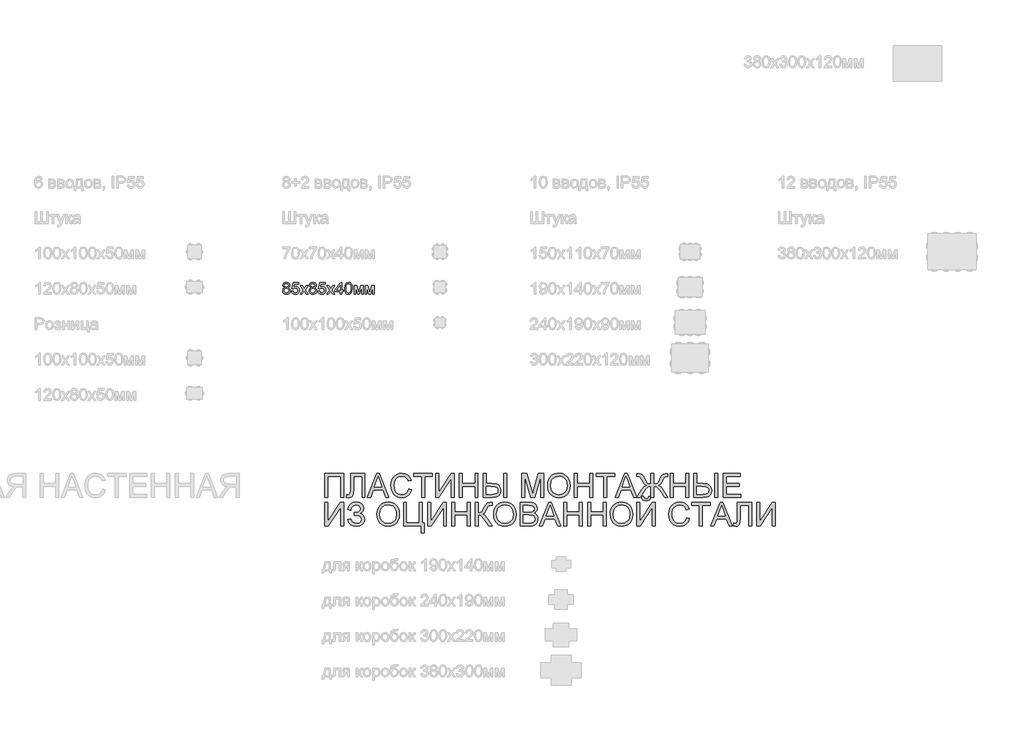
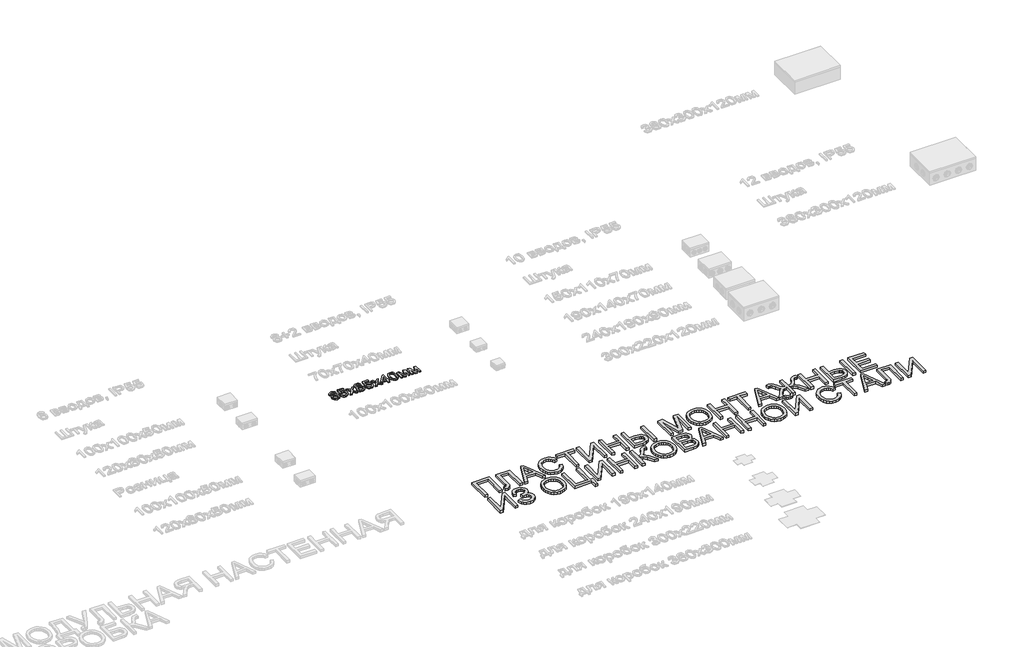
# One storey, part 24 of 98: 2 proxies.
"""IFC4 building model written with IfcOpenShell, lengths in millimetres."""

from ifc_helpers import new_model, si_unit, origin, origin_with_axes, place, context, project, spatial, polyline, outline, extrude, element, save

model = new_model("IFC4")

# Units and contexts
model_context = context("Model", 3, world=origin())
ifc_project = project(units=[si_unit("LENGTHUNIT", "METRE", prefix="MILLI")], contexts=[model_context])

# Site, building, storey
site = spatial("IfcSite", under=ifc_project)
building = spatial("IfcBuilding", under=site)
storey = spatial("IfcBuildingStorey", under=building, Name="Этаж 01", Elevation=0.0)

# Proxies
placement = place(None, origin())
element("IfcBuildingElementProxy", 1, Name="100", ObjectType="100", at=placement, inside=storey, context=model_context, shape_type="SweptSolid", body=[
    extrude(outline(polyline([(8068.7462166, -46004.1827144), (8057.3050866, -45996.3836161), (8053.5894784, -45984.2435102), (8055.6128294, -45974.4271923), (8061.6828823, -45966.3153943), (8071.1190555, -45960.8707408), (8083.2407672, -45959.0558563), (8095.4360554, -45960.9136604), (8104.9948559, -45966.4870726), (8111.1752734, -45974.7276293), (8113.2354126, -45984.5868668), (8109.5688553, -45996.4204043), (8098.4465563, -46004.1827144), (8111.8006728, -46014.0296891), (8116.3746722, -46030.2778106), (8114.1060666, -46042.2830264), (8107.3002497, -46052.2035775), (8096.7910874, -46058.8622416), (8083.4124455, -46061.0817963), (8070.0338036, -46058.8530446), (8059.5246413, -46052.1667893), (8052.7188243, -46042.151202), (8050.4502187, -46029.934454), (8055.2081592, -46013.3061879), (8068.7462166, -46004.1827144)]), holes=[polyline([(8066.1465172, -45984.6113922), (8070.5978893, -45994.4706297), (8083.5595983, -45998.2966025), (8096.2637898, -45994.4951552), (8100.6783738, -45985.175478), (8096.116637, -45975.524707), (8083.4124455, -45971.6128951), (8070.6714657, -45975.4388678), (8066.1465172, -45984.6113922)]), polyline([(8063.0072575, -46029.4929957), (8065.1041849, -46038.9475629), (8072.5231384, -46046.02316), (8083.5105473, -46048.5247575), (8092.0576724, -46047.2095794), (8098.4710818, -46043.264045), (8103.8176335, -46029.8854031), (8098.2994035, -46016.2492438), (8091.7388413, -46012.2025419), (8083.0936144, -46010.8536412), (8074.666051, -46012.1841478), (8068.3170209, -46016.1756674), (8063.0072575, -46029.4929957)])]), origin_with_axes(), (0.0, 0.0, 1.0), 10.0),
    extrude(outline(polyline([(8127.3620812, -46032.8284591), (8139.9191199, -46031.2588292), (8146.2466903, -46044.1960127), (8159.3678147, -46048.5247575), (8168.3686609, -46047.019507), (8175.1131641, -46042.5037555), (8179.325413, -46035.4986692), (8180.7294959, -46026.5254142), (8175.4687834, -46011.6139307), (8168.8622359, -46007.5120464), (8159.5640185, -46006.1447517), (8148.5398214, -46008.3275182), (8141.4887498, -46013.9929009), (8128.931711, -46012.4232711), (8139.9191199, -45960.6254862), (8188.5776452, -45960.6254862), (8188.5776452, -45973.1825249), (8150.072663, -45973.1825249), (8144.7015859, -46000.847251), (8153.6717752, -45995.4025974), (8163.0711602, -45993.5877129), (8174.8035301, -45995.8379245), (8184.543206, -46002.5885591), (8191.1007025, -46012.8769922), (8193.2865347, -46025.7405993), (8191.318366, -46038.2976381), (8185.41386, -46049.0397923), (8174.10762, -46058.0712953), (8159.3187638, -46061.0817963), (8146.9855199, -46059.1473501), (8137.160005, -46053.3440117), (8130.4246988, -46044.3462312), (8127.3620812, -46032.8284591)])), origin_with_axes(), (0.0, 0.0, 1.0), 10.0),
    extrude(outline(polyline([(8199.5650541, -46059.5121665), (8226.3959143, -46022.4296613), (8201.1346839, -45985.7395637), (8216.2423712, -45985.7395637), (8228.431528, -46003.3978995), (8234.1214362, -46011.736558), (8239.0510549, -46004.9184784), (8252.9324689, -45985.7395637), (8268.0401561, -45985.7395637), (8241.5036015, -46022.4296613), (8267.0591375, -46059.5121665), (8251.9514502, -46059.5121665), (8236.5739828, -46037.2185176), (8233.7535542, -46033.1472901), (8214.6727414, -46059.5121665), (8199.5650541, -46059.5121665)])), origin_with_axes(), (0.0, 0.0, 1.0), 10.0),
    extrude(outline(polyline([(8293.2032846, -46004.1827144), (8281.7621545, -45996.3836161), (8278.0465464, -45984.2435102), (8280.0698974, -45974.4271923), (8286.1399503, -45966.3153943), (8295.5761235, -45960.8707408), (8307.6978352, -45959.0558563), (8319.8931233, -45960.9136604), (8329.4519239, -45966.4870726), (8335.6323414, -45974.7276293), (8337.6924805, -45984.5868668), (8334.0259233, -45996.4204043), (8322.9036243, -46004.1827144), (8336.2577408, -46014.0296891), (8340.8317402, -46030.2778106), (8338.5631346, -46042.2830264), (8331.7573177, -46052.2035775), (8321.2481554, -46058.8622416), (8307.8695135, -46061.0817963), (8294.4908716, -46058.8530446), (8283.9817092, -46052.1667893), (8277.1758923, -46042.151202), (8274.9072867, -46029.934454), (8279.6652272, -46013.3061879), (8293.2032846, -46004.1827144)]), holes=[polyline([(8287.4643255, -46029.4929957), (8289.5612528, -46038.9475629), (8296.9802064, -46046.02316), (8307.9676153, -46048.5247575), (8316.5147404, -46047.2095794), (8322.9281498, -46043.264045), (8328.2747015, -46029.8854031), (8322.7564715, -46016.2492438), (8316.1959093, -46012.2025419), (8307.5506824, -46010.8536412), (8299.123119, -46012.1841478), (8292.7740889, -46016.1756674), (8287.4643255, -46029.4929957)]), polyline([(8290.6035852, -45984.6113922), (8295.0549573, -45994.4706297), (8308.0166663, -45998.2966025), (8320.7208578, -45994.4951552), (8325.1354418, -45985.175478), (8320.573705, -45975.524707), (8307.8695135, -45971.6128951), (8295.1285337, -45975.4388678), (8290.6035852, -45984.6113922)])]), origin_with_axes(), (0.0, 0.0, 1.0), 10.0),
    extrude(outline(polyline([(8351.8191492, -46032.8284591), (8364.3761879, -46031.2588292), (8370.7037582, -46044.1960127), (8383.8248827, -46048.5247575), (8392.8257289, -46047.019507), (8399.5702321, -46042.5037555), (8403.782481, -46035.4986692), (8405.1865639, -46026.5254142), (8399.9258514, -46011.6139307), (8393.3193039, -46007.5120464), (8384.0210865, -46006.1447517), (8372.9968893, -46008.3275182), (8365.9458178, -46013.9929009), (8353.388779, -46012.4232711), (8364.3761879, -45960.6254862), (8413.0347132, -45960.6254862), (8413.0347132, -45973.1825249), (8374.529731, -45973.1825249), (8369.1586539, -46000.847251), (8378.1288432, -45995.4025974), (8387.5282282, -45993.5877129), (8399.2605981, -45995.8379245), (8409.0002739, -46002.5885591), (8415.5577705, -46012.8769922), (8417.7436027, -46025.7405993), (8415.775434, -46038.2976381), (8409.870928, -46049.0397923), (8398.564688, -46058.0712953), (8383.7758318, -46061.0817963), (8371.4425879, -46059.1473501), (8361.617073, -46053.3440117), (8354.8817668, -46044.3462312), (8351.8191492, -46032.8284591)])), origin_with_axes(), (0.0, 0.0, 1.0), 10.0),
    extrude(outline(polyline([(8424.0221221, -46059.5121665), (8450.8529823, -46022.4296613), (8425.5917519, -45985.7395637), (8440.6994392, -45985.7395637), (8452.888596, -46003.3978995), (8458.5785042, -46011.736558), (8463.5081229, -46004.9184784), (8477.3895368, -45985.7395637), (8492.4972241, -45985.7395637), (8465.9606695, -46022.4296613), (8491.5162055, -46059.5121665), (8476.4085182, -46059.5121665), (8461.0310508, -46037.2185176), (8458.2106222, -46033.1472901), (8439.1298093, -46059.5121665), (8424.0221221, -46059.5121665)])), origin_with_axes(), (0.0, 0.0, 1.0), 10.0),
    extrude(outline(polyline([(8540.1747307, -46059.5121665), (8540.1747307, -46035.9677188), (8494.6554652, -46035.9677188), (8494.6554652, -46023.41068), (8543.3139904, -45960.6254862), (8552.7317695, -45960.6254862), (8552.7317695, -46023.41068), (8565.2888082, -46023.41068), (8565.2888082, -46035.9677188), (8552.7317695, -46035.9677188), (8552.7317695, -46059.5121665), (8540.1747307, -46059.5121665)]), holes=[polyline([(8540.1747307, -46023.41068), (8540.1747307, -45984.6113922), (8510.1065089, -46023.41068), (8540.1747307, -46023.41068)])]), origin_with_axes(), (0.0, 0.0, 1.0), 10.0),
    extrude(outline(polyline([(8576.2762171, -46010.0933518), (8579.9672998, -45981.1900897), (8590.9301833, -45964.5250353), (8609.2384439, -45959.0558563), (8623.9046728, -45962.2932179), (8634.0336904, -45971.6251578), (8639.9198023, -45986.4875904), (8642.2006707, -46010.0933518), (8638.5463762, -46038.8739865), (8627.6202809, -46055.5758291), (8619.3889213, -46059.7053045), (8609.2384439, -46061.0817963), (8596.1908958, -46058.6905633), (8586.2826074, -46051.5168644), (8578.7778147, -46034.5268476), (8576.2762171, -46010.0933518)]), holes=[polyline([(8588.8332559, -46010.0688263), (8590.3047839, -46029.8210238), (8594.7193678, -46041.2529568), (8601.2921928, -46046.7068073), (8609.2384439, -46048.5247575), (8617.184695, -46046.700676), (8623.75752, -46041.2284313), (8628.1721039, -46029.7903669), (8629.6436319, -46010.0688263), (8628.2211549, -45990.7611529), (8623.9537237, -45979.2403151), (8617.3931615, -45973.5197501), (8609.0912911, -45971.6128951), (8601.2308792, -45973.2928895), (8594.9155716, -45978.3328729), (8590.3538348, -45990.5710806), (8588.8332559, -46010.0688263)])]), origin_with_axes(), (0.0, 0.0, 1.0), 10.0),
    extrude(outline(polyline([(8656.3273393, -45985.7395637), (8677.9342751, -45985.7395637), (8694.5870668, -46044.7968867), (8712.5397082, -45985.7395637), (8733.2392018, -45985.7395637), (8733.2392018, -46059.5121665), (8720.682163, -46059.5121665), (8720.682163, -46000.111487), (8702.6314198, -46059.5121665), (8686.1503064, -46059.5121665), (8668.8843781, -45997.2665329), (8668.8843781, -46059.5121665), (8656.3273393, -46059.5121665), (8656.3273393, -45985.7395637)])), origin_with_axes(), (0.0, 0.0, 1.0), 10.0),
    extrude(outline(polyline([(8752.0747599, -45985.7395637), (8773.6816958, -45985.7395637), (8790.3344874, -46044.7968867), (8808.2871288, -45985.7395637), (8828.9866224, -45985.7395637), (8828.9866224, -46059.5121665), (8816.4295836, -46059.5121665), (8816.4295836, -46000.111487), (8798.3788404, -46059.5121665), (8781.897727, -46059.5121665), (8764.6317987, -45997.2665329), (8764.6317987, -46059.5121665), (8752.0747599, -46059.5121665), (8752.0747599, -45985.7395637)])), origin_with_axes(), (0.0, 0.0, 1.0), 10.0),
])
element("IfcBuildingElementProxy", 2, Name="200", ObjectType="200", at=placement, inside=storey, context=model_context, shape_type="SweptSolid", body=[
    extrude(outline(polyline([(8410.119798, -47581.3349791), (8567.0827826, -47581.3349791), (8567.0827826, -47782.2475994), (8541.968705, -47782.2475994), (8541.968705, -47606.4490567), (8435.2338755, -47606.4490567), (8435.2338755, -47782.2475994), (8410.119798, -47782.2475994), (8410.119798, -47581.3349791)])), origin_with_axes(), (0.0, 0.0, 1.0), 20.0),
    extrude(outline(polyline([(8626.7287167, -47581.3349791), (8749.1598447, -47581.3349791), (8749.1598447, -47782.2475994), (8724.0457672, -47782.2475994), (8724.0457672, -47606.4490567), (8651.8427943, -47606.4490567), (8651.8427943, -47708.965506), (8648.9242638, -47754.7055007), (8644.4054466, -47767.6304215), (8636.6860561, -47777.3179807), (8626.1155801, -47783.3696395), (8613.0435065, -47785.3868591), (8592.1968601, -47782.2475994), (8595.3361198, -47757.1335219), (8607.3535983, -47760.2727816), (8615.845541, -47758.5866558), (8621.8971999, -47753.5282783), (8625.5208375, -47742.215907), (8626.7287167, -47721.7677994), (8626.7287167, -47581.3349791)])), origin_with_axes(), (0.0, 0.0, 1.0), 20.0),
    extrude(outline(polyline([(8769.7121855, -47782.2475994), (8849.9104605, -47581.3349791), (8871.2966671, -47581.3349791), (8951.4949421, -47782.2475994), (8924.9583875, -47782.2475994), (8901.9535001, -47719.4624056), (8819.2045766, -47719.4624056), (8796.2487401, -47782.2475994), (8769.7121855, -47782.2475994)]), holes=[polyline([(8828.426152, -47694.3483281), (8892.7809756, -47694.3483281), (8874.6811815, -47644.9540388), (8860.6035638, -47606.4490567), (8848.095576, -47640.6375568), (8828.426152, -47694.3483281)])]), origin_with_axes(), (0.0, 0.0, 1.0), 20.0),
    extrude(outline(polyline([(9119.5924884, -47710.8294414), (9144.7065659, -47717.3041646), (9133.1182831, -47746.5691773), (9114.9326498, -47767.9492526), (9091.0448456, -47781.0274575), (9062.35005, -47785.3868591), (9033.2199273, -47782.0881839), (9010.0862812, -47772.1921582), (8992.354369, -47756.0421386), (8979.4294482, -47733.9814817), (8971.5383794, -47708.045801), (8968.9080232, -47680.2707104), (8971.881736, -47650.9750408), (8980.8028744, -47625.6770223), (8995.2054545, -47605.1798638), (9014.6234924, -47590.2867744), (9037.6529053, -47581.2184832), (9062.8896102, -47578.1957194), (9090.4255776, -47582.1075313), (9113.1913417, -47593.842967), (9130.4756641, -47612.6785251), (9141.5673063, -47637.8907045), (9116.4532287, -47643.8749183), (9107.7466882, -47625.5605263), (9095.851837, -47612.9973562), (9080.6215224, -47605.7316868), (9061.9085916, -47603.309797), (9040.3384439, -47605.9953355), (9022.6187945, -47614.0519512), (9009.1727076, -47626.6335155), (9000.4232474, -47642.8938997), (8995.6223874, -47661.2757367), (8994.0221007, -47680.2216594), (8995.916693, -47703.4227506), (9001.6004698, -47723.4845821), (9011.288029, -47739.640733), (9025.1939684, -47751.1247826), (9041.8651542, -47757.9857819), (9059.8484524, -47760.2727816), (9080.8115947, -47757.1580474), (9098.2798582, -47747.8138447), (9111.4684277, -47732.3382754), (9119.5924884, -47710.8294414)])), origin_with_axes(), (0.0, 0.0, 1.0), 20.0),
    extrude(outline(polyline([(9229.4665776, -47782.2475994), (9229.4665776, -47606.4490567), (9163.5421241, -47606.4490567), (9163.5421241, -47581.3349791), (9320.5051087, -47581.3349791), (9320.5051087, -47606.4490567), (9254.5806552, -47606.4490567), (9254.5806552, -47782.2475994), (9229.4665776, -47782.2475994)])), origin_with_axes(), (0.0, 0.0, 1.0), 20.0),
    extrude(outline(polyline([(9348.7584459, -47581.3349791), (9373.8725235, -47581.3349791), (9373.8725235, -47740.4562048), (9479.0377232, -47581.3349791), (9505.7214305, -47581.3349791), (9505.7214305, -47782.2475994), (9480.607353, -47782.2475994), (9480.607353, -47623.5678322), (9375.687408, -47782.2475994), (9348.7584459, -47782.2475994), (9348.7584459, -47581.3349791)])), origin_with_axes(), (0.0, 0.0, 1.0), 20.0),
    extrude(outline(polyline([(9549.6710662, -47782.2475994), (9549.6710662, -47581.3349791), (9574.7851438, -47581.3349791), (9574.7851438, -47662.9557311), (9681.5199733, -47662.9557311), (9681.5199733, -47581.3349791), (9706.6340508, -47581.3349791), (9706.6340508, -47782.2475994), (9681.5199733, -47782.2475994), (9681.5199733, -47688.0698087), (9574.7851438, -47688.0698087), (9574.7851438, -47782.2475994), (9549.6710662, -47782.2475994)])), origin_with_axes(), (0.0, 0.0, 1.0), 20.0),
    extrude(outline(polyline([(9926.3822293, -47581.3349791), (9951.4963068, -47581.3349791), (9951.4963068, -47782.2475994), (9926.3822293, -47782.2475994), (9926.3822293, -47581.3349791)])), origin_with_axes(), (0.0, 0.0, 1.0), 20.0),
    extrude(outline(polyline([(9750.5836865, -47581.3349791), (9775.6977641, -47581.3349791), (9775.6977641, -47666.0949908), (9823.9638818, -47666.0949908), (9863.2414162, -47670.4850493), (9876.8009334, -47675.9726224), (9886.3076173, -47683.6552247), (9897.5280181, -47702.392681), (9901.2681518, -47723.4845821), (9897.3134203, -47745.5145822), (9885.449226, -47764.6137891), (9875.8429074, -47772.3285811), (9862.8428774, -47777.8391469), (9826.6616831, -47782.2475994), (9750.5836865, -47782.2475994), (9750.5836865, -47581.3349791)]), holes=[polyline([(9775.6977641, -47757.1335219), (9826.4164285, -47757.1335219), (9848.9737261, -47755.1408278), (9864.3573249, -47749.1627453), (9873.2048869, -47738.7946044), (9876.1540742, -47723.6317349), (9874.3698465, -47712.6811142), (9869.0171635, -47703.6680053), (9860.8379205, -47697.0829176), (9850.5740128, -47693.4163603), (9812.8293201, -47691.2090684), (9775.6977641, -47691.2090684), (9775.6977641, -47757.1335219)])]), origin_with_axes(), (0.0, 0.0, 1.0), 20.0),
    extrude(outline(polyline([(10077.0666945, -47782.2475994), (10077.0666945, -47581.3349791), (10120.2805662, -47581.3349791), (10161.3852478, -47722.9450218), (10169.6748554, -47752.5227342), (10178.6511761, -47720.4924752), (10219.0691447, -47581.3349791), (10262.2830164, -47581.3349791), (10262.2830164, -47782.2475994), (10237.1689388, -47782.2475994), (10237.1689388, -47606.4490567), (10186.6955291, -47782.2475994), (10152.6541818, -47782.2475994), (10102.1807721, -47606.4490567), (10102.1807721, -47782.2475994), (10077.0666945, -47782.2475994)])), origin_with_axes(), (0.0, 0.0, 1.0), 20.0),
    extrude(outline(polyline([(10296.814873, -47684.4400397), (10298.4887361, -47660.8741322), (10303.5103253, -47640.0121574), (10311.8796407, -47621.8541152), (10323.5966822, -47606.4000057), (10337.9594084, -47594.0606305), (10354.2657779, -47585.246791), (10372.5157905, -47579.9584873), (10392.7094464, -47578.1957194), (10419.06206, -47581.5066574), (10442.6923468, -47591.4394713), (10462.3127199, -47607.2951853), (10476.6355922, -47628.3748236), (10485.3911837, -47653.6605794), (10488.3097142, -47682.1346458), (10485.2378995, -47710.988857), (10476.0224556, -47736.630232), (10461.1722857, -47757.7466586), (10441.1962933, -47773.0260241), (10417.7683416, -47782.2966504), (10392.5622936, -47785.3868591), (10365.8050098, -47781.9716879), (10342.0398329, -47771.7261744), (10322.4685108, -47755.5761548), (10308.2927912, -47734.4474655), (10299.6843525, -47710.136597), (10296.814873, -47684.4400397)]), holes=[polyline([(10321.9289505, -47684.6852943), (10326.9505397, -47716.1146794), (10342.0153074, -47740.0637973), (10364.6584442, -47755.2205355), (10392.4151408, -47760.2727816), (10420.5765075, -47755.1714846), (10443.2564325, -47739.8675936), (10451.9798343, -47728.5950761), (10458.2108356, -47715.1827117), (10463.1956367, -47681.9384421), (10461.0619211, -47659.7061068), (10454.6607744, -47640.490404), (10444.1577434, -47624.7757114), (10429.7183751, -47613.0464071), (10412.2991626, -47605.7439495), (10392.8565992, -47603.309797), (10365.841798, -47608.0002924), (10342.8736988, -47622.0717787), (10333.7103714, -47633.0208666), (10327.1651376, -47647.1061485), (10321.9289505, -47684.6852943)])]), origin_with_axes(), (0.0, 0.0, 1.0), 20.0),
    extrude(outline(polyline([(10522.8415708, -47782.2475994), (10522.8415708, -47581.3349791), (10547.9556483, -47581.3349791), (10547.9556483, -47662.9557311), (10654.6904779, -47662.9557311), (10654.6904779, -47581.3349791), (10679.8045554, -47581.3349791), (10679.8045554, -47782.2475994), (10654.6904779, -47782.2475994), (10654.6904779, -47688.0698087), (10547.9556483, -47688.0698087), (10547.9556483, -47782.2475994), (10522.8415708, -47782.2475994)])), origin_with_axes(), (0.0, 0.0, 1.0), 20.0),
    extrude(outline(polyline([(10773.9823462, -47782.2475994), (10773.9823462, -47606.4490567), (10708.0578926, -47606.4490567), (10708.0578926, -47581.3349791), (10865.0208773, -47581.3349791), (10865.0208773, -47606.4490567), (10799.0964237, -47606.4490567), (10799.0964237, -47782.2475994), (10773.9823462, -47782.2475994)])), origin_with_axes(), (0.0, 0.0, 1.0), 20.0),
    extrude(outline(polyline([(10869.8769196, -47782.2475994), (10950.0751945, -47581.3349791), (10971.4614012, -47581.3349791), (11051.6596761, -47782.2475994), (11025.1231216, -47782.2475994), (11002.1182341, -47719.4624056), (10919.3693107, -47719.4624056), (10896.4134742, -47782.2475994), (10869.8769196, -47782.2475994)]), holes=[polyline([(10928.590886, -47694.3483281), (10992.9457097, -47694.3483281), (10974.8459155, -47644.9540388), (10960.7682979, -47606.4490567), (10948.26031, -47640.6375568), (10928.590886, -47694.3483281)])]), origin_with_axes(), (0.0, 0.0, 1.0), 20.0),
    extrude(outline(polyline([(11197.7824046, -47581.3349791), (11197.7824046, -47669.2342505), (11216.1519789, -47667.5419933), (11227.7034736, -47662.4652218), (11236.7411079, -47650.7175234), (11247.5691013, -47629.0124857), (11261.7938718, -47600.9308267), (11277.7108994, -47586.9758364), (11300.3479049, -47581.3349791), (11317.0742729, -47581.6292847), (11317.0742729, -47606.4490567), (11311.5805685, -47606.3019039), (11305.9397112, -47606.1547511), (11294.2042756, -47607.6875927), (11285.9759816, -47612.2861177), (11270.7701925, -47637.9397555), (11254.706012, -47666.6590766), (11235.0120625, -47679.3387427), (11254.8654275, -47691.0619156), (11274.1056559, -47715.2440254), (11317.0742729, -47782.2475994), (11287.888968, -47782.2475994), (11251.444125, -47725.3975685), (11226.3545729, -47696.5065691), (11214.1224966, -47690.1789988), (11197.7824046, -47688.0698087), (11197.7824046, -47782.2475994), (11172.6683271, -47782.2475994), (11172.6683271, -47688.0698087), (11158.9156718, -47689.7068836), (11146.892062, -47694.6181082), (11134.7948757, -47704.9371982), (11120.8214912, -47722.797869), (11119.0066067, -47725.3975685), (11082.5617637, -47782.2475994), (11053.3764588, -47782.2475994), (11096.2960249, -47715.2440254), (11115.7569824, -47690.9883392), (11135.4877201, -47679.3387427), (11116.8483657, -47667.9834517), (11099.6805392, -47637.9397555), (11084.0332917, -47611.7465574), (11075.9521506, -47607.7734319), (11064.6581733, -47606.4490567), (11053.3764588, -47606.7433623), (11053.3764588, -47581.6292847), (11069.21991, -47581.3349791), (11092.7643577, -47586.8532091), (11108.3870798, -47600.6855721), (11122.8816304, -47629.0615366), (11133.7157552, -47651.0056977), (11142.6736817, -47662.5878491), (11154.1822568, -47667.4500228), (11172.6683271, -47669.2342505), (11172.6683271, -47581.3349791), (11197.7824046, -47581.3349791)])), origin_with_axes(), (0.0, 0.0, 1.0), 20.0),
    extrude(outline(polyline([(11335.9098311, -47782.2475994), (11335.9098311, -47581.3349791), (11361.0239086, -47581.3349791), (11361.0239086, -47662.9557311), (11467.7587382, -47662.9557311), (11467.7587382, -47581.3349791), (11492.8728157, -47581.3349791), (11492.8728157, -47782.2475994), (11467.7587382, -47782.2475994), (11467.7587382, -47688.0698087), (11361.0239086, -47688.0698087), (11361.0239086, -47782.2475994), (11335.9098311, -47782.2475994)])), origin_with_axes(), (0.0, 0.0, 1.0), 20.0),
    extrude(outline(polyline([(11712.6209941, -47581.3349791), (11737.7350717, -47581.3349791), (11737.7350717, -47782.2475994), (11712.6209941, -47782.2475994), (11712.6209941, -47581.3349791)])), origin_with_axes(), (0.0, 0.0, 1.0), 20.0),
    extrude(outline(polyline([(11536.8224514, -47581.3349791), (11561.9365289, -47581.3349791), (11561.9365289, -47666.0949908), (11610.2026467, -47666.0949908), (11649.480181, -47670.4850493), (11663.0396982, -47675.9726224), (11672.5463821, -47683.6552247), (11683.766783, -47702.392681), (11687.5069166, -47723.4845821), (11683.5521852, -47745.5145822), (11671.6879908, -47764.6137891), (11662.0816722, -47772.3285811), (11649.0816422, -47777.8391469), (11612.900448, -47782.2475994), (11536.8224514, -47782.2475994), (11536.8224514, -47581.3349791)]), holes=[polyline([(11561.9365289, -47757.1335219), (11612.6551933, -47757.1335219), (11635.212491, -47755.1408278), (11650.5960898, -47749.1627453), (11659.4436517, -47738.7946044), (11662.3928391, -47723.6317349), (11660.6086114, -47712.6811142), (11655.2559284, -47703.6680053), (11647.0766853, -47697.0829176), (11636.8127777, -47693.4163603), (11599.068085, -47691.2090684), (11561.9365289, -47691.2090684), (11561.9365289, -47757.1335219)])]), origin_with_axes(), (0.0, 0.0, 1.0), 20.0),
    extrude(outline(polyline([(11784.8239671, -47782.2475994), (11784.8239671, -47581.3349791), (11929.2299129, -47581.3349791), (11929.2299129, -47606.4490567), (11809.9380446, -47606.4490567), (11809.9380446, -47666.0949908), (11922.9513935, -47666.0949908), (11922.9513935, -47691.2090684), (11809.9380446, -47691.2090684), (11809.9380446, -47757.1335219), (11932.3691726, -47757.1335219), (11932.3691726, -47782.2475994), (11784.8239671, -47782.2475994)])), origin_with_axes(), (0.0, 0.0, 1.0), 20.0),
    extrude(outline(polyline([(8410.119798, -47825.2846148), (8435.2338755, -47825.2846148), (8435.2338755, -47984.4058405), (8540.3990752, -47825.2846148), (8567.0827826, -47825.2846148), (8567.0827826, -48026.1972351), (8541.968705, -48026.1972351), (8541.968705, -47867.5174679), (8437.04876, -48026.1972351), (8410.119798, -48026.1972351), (8410.119798, -47825.2846148)])), origin_with_axes(), (0.0, 0.0, 1.0), 20.0),
    extrude(outline(polyline([(8601.6146392, -47969.6905607), (8626.7287167, -47963.4120413), (8632.0323488, -47977.005281), (8642.1552351, -47990.6107835), (8656.7294934, -48000.8195088), (8675.387242, -48004.2224173), (8694.2902451, -48001.6656374), (8708.7173507, -47993.9952978), (8717.8592183, -47982.7074519), (8720.9065075, -47969.2981532), (8717.5771754, -47955.2511924), (8707.5891793, -47944.4048049), (8691.862224, -47937.4702293), (8671.3160146, -47935.1587041), (8658.1213137, -47935.1587041), (8658.1213137, -47910.0446265), (8686.5463292, -47908.0090128), (8695.8108241, -47904.3915065), (8703.9348848, -47897.6102151), (8709.6002675, -47888.676814), (8711.4887284, -47878.6029787), (8708.9748681, -47866.7755725), (8701.4332872, -47856.6036354), (8689.5997497, -47849.5954833), (8674.2100196, -47847.2594327), (8660.2979488, -47849.0559231), (8648.5809072, -47854.4453943), (8639.6045866, -47862.802447), (8633.9146784, -47873.5016817), (8629.8679764, -47891.2090684), (8604.7538989, -47884.930549), (8612.5560629, -47857.4620267), (8626.6919285, -47837.8416536), (8647.1614959, -47826.0694298), (8673.9647649, -47822.1453551), (8699.8207378, -47826.2227139), (8719.7047596, -47838.4547903), (8732.3782944, -47856.1437829), (8736.602806, -47876.5918904), (8734.9595997, -47889.8080511), (8730.029981, -47901.4484506), (8721.8139498, -47911.5130888), (8710.311506, -47920.0019659), (8724.2787591, -47926.4337694), (8735.7689401, -47937.2924196), (8743.4576738, -47951.6459488), (8746.020585, -47968.5623892), (8741.103229, -47992.3459602), (8726.351161, -48011.8988883), (8703.4811637, -48024.9770932), (8674.2100196, -48029.3364948), (8648.7403228, -48025.6086239), (8628.1511938, -48014.4250113), (8612.4426326, -47995.7856569), (8601.6146392, -47969.6905607)])), origin_with_axes(), (0.0, 0.0, 1.0), 20.0),
    extrude(outline(polyline([(8849.6161549, -47928.3896753), (8851.290018, -47904.8237679), (8856.3116072, -47883.9617931), (8864.6809226, -47865.8037509), (8876.3979641, -47850.3496414), (8890.7606904, -47838.0102662), (8907.0670598, -47829.1964267), (8925.3170724, -47823.908123), (8945.5107283, -47822.1453551), (8971.8633419, -47825.4562931), (8995.4936287, -47835.389107), (9015.1140018, -47851.244821), (9029.4368741, -47872.3244593), (9038.1924656, -47897.6102151), (9041.1109961, -47926.0842815), (9038.0391814, -47954.9384927), (9028.8237375, -47980.5798677), (9013.9735676, -48001.6962943), (8993.9975753, -48016.9756598), (8970.5696235, -48026.2462861), (8945.3635755, -48029.3364948), (8918.6062917, -48025.9213236), (8894.8411148, -48015.6758101), (8875.2697927, -47999.5257905), (8861.0940731, -47978.3971012), (8852.4856344, -47954.0862327), (8849.6161549, -47928.3896753)]), holes=[polyline([(8874.7302324, -47928.63493), (8879.7518217, -47960.0643151), (8894.8165894, -47984.013433), (8917.4597262, -47999.1701712), (8945.2164227, -48004.2224173), (8973.3777894, -47999.1211203), (8996.0577144, -47983.8172293), (9004.7811162, -47972.5447118), (9011.0121175, -47959.1323474), (9015.9969186, -47925.8880778), (9013.863203, -47903.6557425), (9007.4620563, -47884.4400397), (8996.9590253, -47868.7253471), (8982.519657, -47856.9960428), (8965.1004445, -47849.6935852), (8945.6578811, -47847.2594327), (8918.6430799, -47851.9499281), (8895.6749807, -47866.0214144), (8886.5116533, -47876.9705023), (8879.9664195, -47891.0557842), (8874.7302324, -47928.63493)])]), origin_with_axes(), (0.0, 0.0, 1.0), 20.0),
    extrude(outline(polyline([(9075.6428527, -47825.2846148), (9100.7569303, -47825.2846148), (9100.7569303, -48001.0831576), (9207.4917598, -48001.0831576), (9207.4917598, -47825.2846148), (9232.6058373, -47825.2846148), (9232.6058373, -48001.0831576), (9251.4413955, -48001.0831576), (9251.4413955, -48082.7039096), (9226.3273179, -48082.7039096), (9226.3273179, -48026.1972351), (9075.6428527, -48026.1972351), (9075.6428527, -47825.2846148)])), origin_with_axes(), (0.0, 0.0, 1.0), 20.0),
    extrude(outline(polyline([(9282.8339924, -47825.2846148), (9307.9480699, -47825.2846148), (9307.9480699, -47984.4058405), (9413.1132696, -47825.2846148), (9439.796977, -47825.2846148), (9439.796977, -48026.1972351), (9414.6828995, -48026.1972351), (9414.6828995, -47867.5174679), (9309.7629544, -48026.1972351), (9282.8339924, -48026.1972351), (9282.8339924, -47825.2846148)])), origin_with_axes(), (0.0, 0.0, 1.0), 20.0),
    extrude(outline(polyline([(9483.7466127, -48026.1972351), (9483.7466127, -47825.2846148), (9508.8606902, -47825.2846148), (9508.8606902, -47906.9053668), (9615.5955198, -47906.9053668), (9615.5955198, -47825.2846148), (9640.7095973, -47825.2846148), (9640.7095973, -48026.1972351), (9615.5955198, -48026.1972351), (9615.5955198, -47932.0194444), (9508.8606902, -47932.0194444), (9508.8606902, -48026.1972351), (9483.7466127, -48026.1972351)])), origin_with_axes(), (0.0, 0.0, 1.0), 20.0),
    extrude(outline(polyline([(9684.659233, -47825.2846148), (9709.7733105, -47825.2846148), (9709.7733105, -47913.1838862), (9726.7755901, -47911.5222859), (9737.8549695, -47906.5374848), (9746.8128961, -47894.8081806), (9757.4508171, -47872.9130705), (9771.3077056, -47844.8314115), (9787.0040041, -47830.9254721), (9809.4448058, -47825.2846148), (9825.9259191, -47825.5789204), (9825.9259191, -47850.692998), (9820.3831638, -47850.5458452), (9814.8404084, -47850.3986924), (9803.3379646, -47851.9070085), (9795.2200353, -47856.4319571), (9780.3085517, -47882.2817986), (9762.5275886, -47913.7724974), (9745.1880839, -47924.1712951), (9764.5754651, -47935.5265861), (9783.6930661, -47959.1936611), (9825.9259191, -48026.1972351), (9796.7896651, -48026.1972351), (9761.0805861, -47969.5924588), (9735.9419831, -47940.0392719), (9724.3353062, -47934.0244012), (9709.7733105, -47932.0194444), (9709.7733105, -48026.1972351), (9684.659233, -48026.1972351), (9684.659233, -47825.2846148)])), origin_with_axes(), (0.0, 0.0, 1.0), 20.0),
    extrude(outline(polyline([(9838.4829579, -47928.3896753), (9840.156821, -47904.8237679), (9845.1784102, -47883.9617931), (9853.5477256, -47865.8037509), (9865.2647672, -47850.3496414), (9879.6274934, -47838.0102662), (9895.9338628, -47829.1964267), (9914.1838755, -47823.908123), (9934.3775313, -47822.1453551), (9960.7301449, -47825.4562931), (9984.3604317, -47835.389107), (10003.9808048, -47851.244821), (10018.3036772, -47872.3244593), (10027.0592686, -47897.6102151), (10029.9777991, -47926.0842815), (10026.9059845, -47954.9384927), (10017.6905405, -47980.5798677), (10002.8403706, -48001.6962943), (9982.8643783, -48016.9756598), (9959.4364266, -48026.2462861), (9934.2303785, -48029.3364948), (9907.4730947, -48025.9213236), (9883.7079179, -48015.6758101), (9864.1365957, -47999.5257905), (9849.9608762, -47978.3971012), (9841.3524375, -47954.0862327), (9838.4829579, -47928.3896753)]), holes=[polyline([(9863.5970355, -47928.63493), (9868.6186247, -47960.0643151), (9883.6833924, -47984.013433), (9906.3265292, -47999.1701712), (9934.0832257, -48004.2224173), (9962.2445925, -47999.1211203), (9984.9245175, -47983.8172293), (9993.6479193, -47972.5447118), (9999.8789206, -47959.1323474), (10004.8637216, -47925.8880778), (10002.730006, -47903.6557425), (9996.3288593, -47884.4400397), (9985.8258283, -47868.7253471), (9971.38646, -47856.9960428), (9953.9672476, -47849.6935852), (9934.5246841, -47847.2594327), (9907.5098829, -47851.9499281), (9884.5417837, -47866.0214144), (9875.3784563, -47876.9705023), (9868.8332225, -47891.0557842), (9863.5970355, -47928.63493)])]), origin_with_axes(), (0.0, 0.0, 1.0), 20.0),
    extrude(outline(polyline([(10064.5096558, -48026.1972351), (10064.5096558, -47825.2846148), (10141.1762635, -47825.2846148), (10162.2620332, -47826.7622742), (10178.7247525, -47831.1952522), (10191.343105, -47838.6939136), (10200.8957741, -47849.3686228), (10206.9106447, -47861.9256615), (10208.9156016, -47875.0713115), (10207.2294758, -47887.1684978), (10202.1710983, -47898.5421828), (10193.7036811, -47908.4933908), (10181.7904358, -47916.3231459), (10196.0213377, -47923.7543622), (10206.5366314, -47935.0606022), (10213.0297486, -47949.4938391), (10215.194121, -47966.3060463), (10209.2834836, -47993.3085848), (10194.6417802, -48012.5365504), (10172.7895897, -48022.7391444), (10140.5876524, -48026.1972351), (10064.5096558, -48026.1972351)]), holes=[polyline([(10089.6237333, -47906.9053668), (10135.4863554, -47906.9053668), (10162.2681646, -47904.7471258), (10178.381396, -47895.451974), (10183.8015241, -47879.093488), (10178.749278, -47862.7104765), (10164.2792528, -47853.0229173), (10132.0037391, -47850.3986924), (10089.6237333, -47850.3986924), (10089.6237333, -47906.9053668)]), polyline([(10089.6237333, -48001.0831576), (10141.1272126, -48001.0831576), (10159.766567, -48000.1021389), (10175.5364419, -47994.6329599), (10185.9842906, -47983.4738728), (10190.0800434, -47966.551301), (10185.273052, -47947.0290298), (10178.9761386, -47939.9718268), (10169.6993809, -47935.3794333), (10138.674666, -47932.0194444), (10089.6237333, -47932.0194444), (10089.6237333, -48001.0831576)])]), origin_with_axes(), (0.0, 0.0, 1.0), 20.0),
    extrude(outline(polyline([(10226.3286827, -48026.1972351), (10306.5269576, -47825.2846148), (10327.9131643, -47825.2846148), (10408.1114392, -48026.1972351), (10381.5748847, -48026.1972351), (10358.5699972, -47963.4120413), (10275.8210738, -47963.4120413), (10252.8652373, -48026.1972351), (10226.3286827, -48026.1972351)]), holes=[polyline([(10285.0426491, -47938.2979637), (10349.3974728, -47938.2979637), (10331.2976787, -47888.9036745), (10317.220061, -47850.3986924), (10304.7120731, -47884.5871925), (10285.0426491, -47938.2979637)])]), origin_with_axes(), (0.0, 0.0, 1.0), 20.0),
    extrude(outline(polyline([(10434.9422994, -48026.1972351), (10434.9422994, -47825.2846148), (10460.056377, -47825.2846148), (10460.056377, -47906.9053668), (10566.7912065, -47906.9053668), (10566.7912065, -47825.2846148), (10591.905284, -47825.2846148), (10591.905284, -48026.1972351), (10566.7912065, -48026.1972351), (10566.7912065, -47932.0194444), (10460.056377, -47932.0194444), (10460.056377, -48026.1972351), (10434.9422994, -48026.1972351)])), origin_with_axes(), (0.0, 0.0, 1.0), 20.0),
    extrude(outline(polyline([(10635.8549197, -48026.1972351), (10635.8549197, -47825.2846148), (10660.9689973, -47825.2846148), (10660.9689973, -47906.9053668), (10767.7038268, -47906.9053668), (10767.7038268, -47825.2846148), (10792.8179043, -47825.2846148), (10792.8179043, -48026.1972351), (10767.7038268, -48026.1972351), (10767.7038268, -47932.0194444), (10660.9689973, -47932.0194444), (10660.9689973, -48026.1972351), (10635.8549197, -48026.1972351)])), origin_with_axes(), (0.0, 0.0, 1.0), 20.0),
    extrude(outline(polyline([(10827.349761, -47928.3896753), (10829.023624, -47904.8237679), (10834.0452133, -47883.9617931), (10842.4145287, -47865.8037509), (10854.1315702, -47850.3496414), (10868.4942964, -47838.0102662), (10884.8006659, -47829.1964267), (10903.0506785, -47823.908123), (10923.2443344, -47822.1453551), (10949.5969479, -47825.4562931), (10973.2272348, -47835.389107), (10992.8476078, -47851.244821), (11007.1704802, -47872.3244593), (11015.9260717, -47897.6102151), (11018.8446022, -47926.0842815), (11015.7727875, -47954.9384927), (11006.5573435, -47980.5798677), (10991.7071737, -48001.6962943), (10971.7311813, -48016.9756598), (10948.3032296, -48026.2462861), (10923.0971816, -48029.3364948), (10896.3398978, -48025.9213236), (10872.5747209, -48015.6758101), (10853.0033987, -47999.5257905), (10838.8276792, -47978.3971012), (10830.2192405, -47954.0862327), (10827.349761, -47928.3896753)]), holes=[polyline([(10852.4638385, -47928.63493), (10857.4854277, -47960.0643151), (10872.5501954, -47984.013433), (10895.1933322, -47999.1701712), (10922.9500288, -48004.2224173), (10951.1113955, -47999.1211203), (10973.7913205, -47983.8172293), (10982.5147223, -47972.5447118), (10988.7457236, -47959.1323474), (10993.7305246, -47925.8880778), (10991.5968091, -47903.6557425), (10985.1956623, -47884.4400397), (10974.6926314, -47868.7253471), (10960.2532631, -47856.9960428), (10942.8340506, -47849.6935852), (10923.3914872, -47847.2594327), (10896.376686, -47851.9499281), (10873.4085867, -47866.0214144), (10864.2452594, -47876.9705023), (10857.7000256, -47891.0557842), (10852.4638385, -47928.63493)])]), origin_with_axes(), (0.0, 0.0, 1.0), 20.0),
    extrude(outline(polyline([(11153.8327689, -47775.0564598), (11172.6683271, -47775.0564598), (11168.6154938, -47791.1390343), (11160.4791703, -47802.9909659), (11148.6272387, -47810.2934235), (11133.4275809, -47812.7275761), (11116.9342048, -47810.3118176), (11104.1441741, -47803.0645423), (11095.4008454, -47791.2310048), (11091.0475751, -47775.0564598), (11109.8831332, -47775.0564598), (11116.9464676, -47789.2076538), (11131.171238, -47793.8920179), (11146.7694346, -47789.3548066), (11153.8327689, -47775.0564598)])), origin_with_axes(), (0.0, 0.0, 1.0), 20.0),
    extrude(outline(polyline([(11053.3764588, -47825.2846148), (11078.4905363, -47825.2846148), (11078.4905363, -47984.4058405), (11183.655736, -47825.2846148), (11210.3394434, -47825.2846148), (11210.3394434, -48026.1972351), (11185.2253659, -48026.1972351), (11185.2253659, -47867.5174679), (11080.3054208, -48026.1972351), (11053.3764588, -48026.1972351), (11053.3764588, -47825.2846148)])), origin_with_axes(), (0.0, 0.0, 1.0), 20.0),
    extrude(outline(polyline([(11474.0372575, -47954.7790771), (11499.1513351, -47961.2538002), (11487.5630522, -47990.518813), (11469.3774189, -48011.8988883), (11445.4896147, -48024.9770932), (11416.7948191, -48029.3364948), (11387.6646964, -48026.0378196), (11364.5310503, -48016.1417939), (11346.7991381, -47999.9917743), (11333.8742174, -47977.9311174), (11325.9831486, -47951.9954367), (11323.3527923, -47924.2203461), (11326.3265051, -47894.9246765), (11335.2476435, -47869.626658), (11349.6502236, -47849.1294995), (11369.0682616, -47834.23641), (11392.0976745, -47825.1681189), (11417.3343793, -47822.1453551), (11444.8703467, -47826.057167), (11467.6361108, -47837.7926027), (11484.9204332, -47856.6281608), (11496.0120754, -47881.8403402), (11470.8979978, -47887.824554), (11462.1914573, -47869.510162), (11450.2966061, -47856.9469919), (11435.0662915, -47849.6813225), (11416.3533607, -47847.2594327), (11394.783213, -47849.9449712), (11377.0635636, -47858.0015869), (11363.6174767, -47870.5831512), (11354.8680166, -47886.8435354), (11350.0671565, -47905.2253724), (11348.4668699, -47924.1712951), (11350.3614621, -47947.3723863), (11356.045239, -47967.4342178), (11365.7327982, -47983.5903687), (11379.6387376, -47995.0744183), (11396.3099233, -48001.9354175), (11414.2932215, -48004.2224173), (11435.2563639, -48001.1076831), (11452.7246273, -47991.7634804), (11465.9131968, -47976.2879111), (11474.0372575, -47954.7790771)])), origin_with_axes(), (0.0, 0.0, 1.0), 20.0),
    extrude(outline(polyline([(11583.9113468, -48026.1972351), (11583.9113468, -47850.3986924), (11517.9868932, -47850.3986924), (11517.9868932, -47825.2846148), (11674.9498778, -47825.2846148), (11674.9498778, -47850.3986924), (11609.0254243, -47850.3986924), (11609.0254243, -48026.1972351), (11583.9113468, -48026.1972351)])), origin_with_axes(), (0.0, 0.0, 1.0), 20.0),
    extrude(outline(polyline([(11679.8059202, -48026.1972351), (11760.0041951, -47825.2846148), (11781.3904018, -47825.2846148), (11861.5886767, -48026.1972351), (11835.0521221, -48026.1972351), (11812.0472347, -47963.4120413), (11729.2983113, -47963.4120413), (11706.3424748, -48026.1972351), (11679.8059202, -48026.1972351)]), holes=[polyline([(11738.5198866, -47938.2979637), (11802.8747103, -47938.2979637), (11784.7749161, -47888.9036745), (11770.6972984, -47850.3986924), (11758.1893106, -47884.5871925), (11738.5198866, -47938.2979637)])]), origin_with_axes(), (0.0, 0.0, 1.0), 20.0),
    extrude(outline(polyline([(11904.1158354, -47825.2846148), (12026.5469634, -47825.2846148), (12026.5469634, -48026.1972351), (12001.4328858, -48026.1972351), (12001.4328858, -47850.3986924), (11929.2299129, -47850.3986924), (11929.2299129, -47952.9151417), (11926.3113824, -47998.6551364), (11921.7925652, -48011.5800572), (11914.0731747, -48021.2676164), (11903.5026987, -48027.3192752), (11890.4306251, -48029.3364948), (11869.5839788, -48026.1972351), (11872.7232384, -48001.0831576), (11884.740717, -48004.2224173), (11893.2326597, -48002.5362915), (11899.2843185, -47997.477914), (11902.9079561, -47986.1655427), (11904.1158354, -47965.7174351), (11904.1158354, -47825.2846148)])), origin_with_axes(), (0.0, 0.0, 1.0), 20.0),
    extrude(outline(polyline([(12070.4965991, -47825.2846148), (12095.6106766, -47825.2846148), (12095.6106766, -47984.4058405), (12200.7758763, -47825.2846148), (12227.4595837, -47825.2846148), (12227.4595837, -48026.1972351), (12202.3455061, -48026.1972351), (12202.3455061, -47867.5174679), (12097.4255611, -48026.1972351), (12070.4965991, -48026.1972351), (12070.4965991, -47825.2846148)])), origin_with_axes(), (0.0, 0.0, 1.0), 20.0),
])

save(model, "model.ifc")
